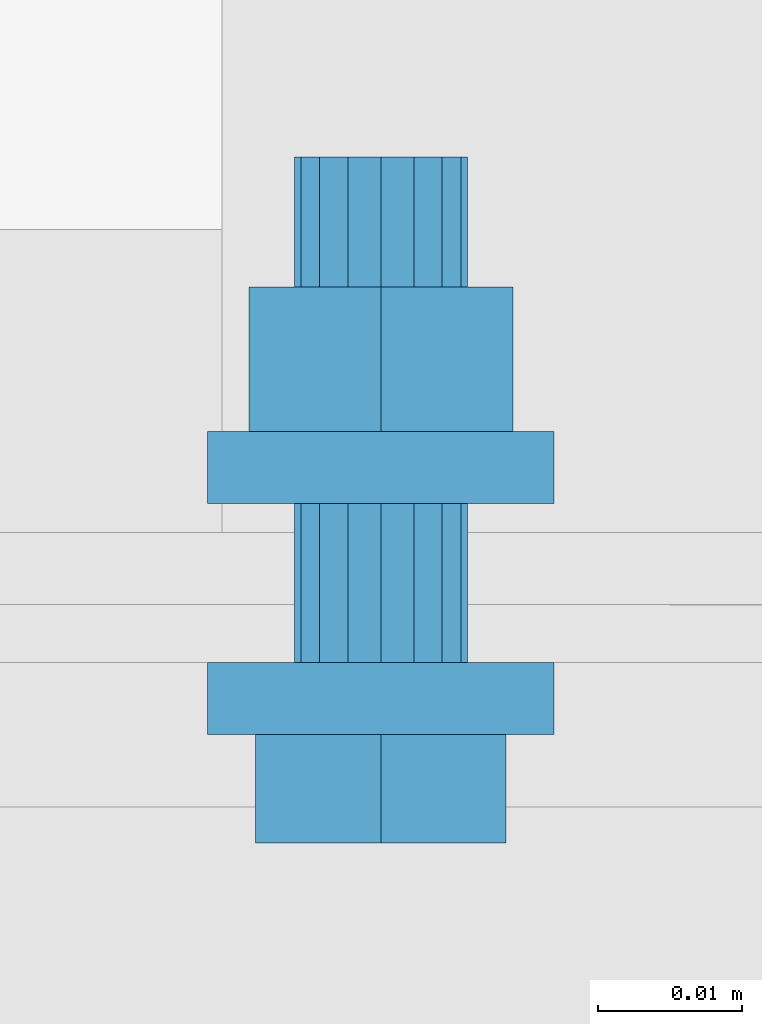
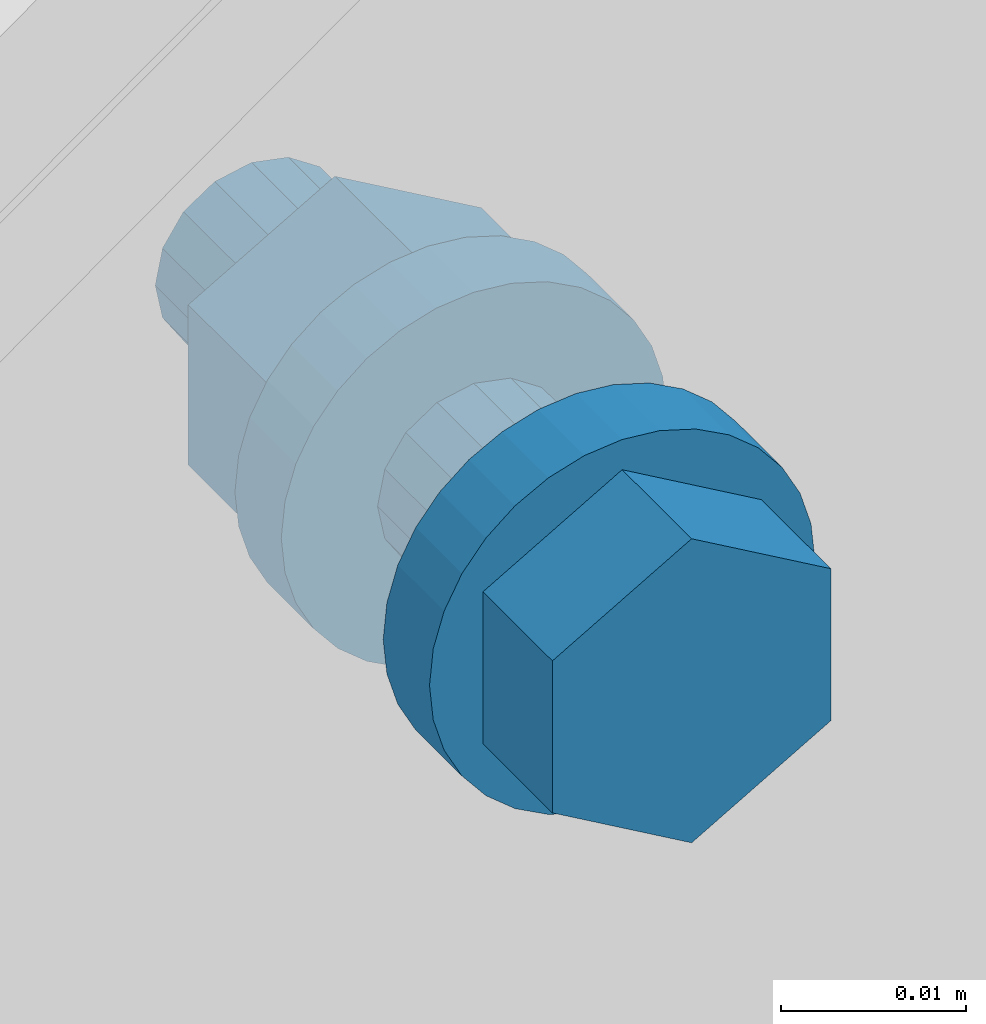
# One storey, part 73 of 116: 1 mechanical fastener.
"""IFC2X3 building model written with IfcOpenShell, lengths in millimetres."""

from ifc_helpers import new_model, entity, si_unit, converted_unit, origin_with_axes, place, context, project, spatial, faceted_brep, element, save


model = new_model("IFC2X3")

# Units and contexts
model_context = context("Model", 3, precision=1e-09, world=origin_with_axes())
ifc_project = project(units=[si_unit("LENGTHUNIT", "METRE", prefix="MILLI"), si_unit("AREAUNIT", "SQUARE_METRE"), si_unit("VOLUMEUNIT", "CUBIC_METRE"), converted_unit("PLANEANGLEUNIT", "DEGREE", entity("IfcPlaneAngleMeasure", 0.01745329), si_unit("PLANEANGLEUNIT", "RADIAN"), dimensions=[0, 0, 0, 0, 0, 0, 0])], contexts=[model_context])

# Site, building, storey
site_placement = place(None, origin_with_axes())
site = spatial("IfcSite", under=ifc_project, at=site_placement, Name="Site", CompositionType="ELEMENT")
building_placement = place(site_placement, origin_with_axes())
building = spatial("IfcBuilding", under=site, at=building_placement, Name="Struktur 1", CompositionType="ELEMENT")
storey_placement = place(building_placement, origin_with_axes())
storey = spatial("IfcBuildingStorey", under=building, at=storey_placement, Name="Default Storey", CompositionType="ELEMENT", Elevation=0.0)

# Mechanical fastener
mechanical_fastener_placement = place(None, origin_with_axes())
element("IfcMechanicalFastener", 1, at=mechanical_fastener_placement, inside=storey, ObjectType="-", NominalDiameter=12.0, NominalLength=40.0, context=model_context, shape_type="Brep", body=[
    faceted_brep([(60285.049134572, 9069.858883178, -1153.0), (60285.049134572, 9072.358883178, -1153.0), (60285.279711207, 9072.358883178, -1155.341083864), (60285.279711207, 9069.858883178, -1155.341083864), (60285.962580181, 9072.358883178, -1157.592201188), (60285.962580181, 9069.858883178, -1157.592201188), (60287.071499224, 9072.358883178, -1159.666842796), (60287.071499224, 9069.858883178, -1159.666842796), (60288.563853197, 9072.358883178, -1161.485281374), (60288.563853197, 9069.858883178, -1161.485281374), (60290.382291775, 9072.358883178, -1162.977635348), (60290.382291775, 9069.858883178, -1162.977635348), (60292.456933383, 9072.358883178, -1164.08655439), (60292.456933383, 9069.858883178, -1164.08655439), (60294.708050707, 9072.358883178, -1164.769423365), (60294.708050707, 9069.858883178, -1164.769423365), (60297.049134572, 9072.358883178, -1165.0), (60297.049134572, 9069.858883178, -1165.0), (60299.390218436, 9072.358883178, -1164.769423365), (60299.390218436, 9069.858883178, -1164.769423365), (60301.64133576, 9072.358883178, -1164.08655439), (60301.64133576, 9069.858883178, -1164.08655439), (60303.715977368, 9072.358883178, -1162.977635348), (60303.715977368, 9069.858883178, -1162.977635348), (60305.534415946, 9072.358883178, -1161.485281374), (60305.534415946, 9069.858883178, -1161.485281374), (60307.026769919, 9072.358883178, -1159.666842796), (60307.026769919, 9069.858883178, -1159.666842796), (60308.135688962, 9072.358883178, -1157.592201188), (60308.135688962, 9069.858883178, -1157.592201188), (60308.818557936, 9072.358883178, -1155.341083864), (60308.818557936, 9069.858883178, -1155.341083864), (60309.049134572, 9072.358883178, -1153.0), (60309.049134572, 9069.858883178, -1153.0), (60308.818557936, 9072.358883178, -1150.658916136), (60308.818557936, 9069.858883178, -1150.658916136), (60308.135688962, 9072.358883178, -1148.407798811), (60308.135688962, 9069.858883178, -1148.407798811), (60307.026769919, 9072.358883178, -1146.333157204), (60307.026769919, 9069.858883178, -1146.333157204), (60305.534415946, 9072.358883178, -1144.514718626), (60305.534415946, 9069.858883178, -1144.514718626), (60303.715977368, 9072.358883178, -1143.022364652), (60303.715977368, 9069.858883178, -1143.022364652), (60301.64133576, 9072.358883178, -1141.91344561), (60301.64133576, 9069.858883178, -1141.91344561), (60299.390218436, 9072.358883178, -1141.230576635), (60299.390218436, 9069.858883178, -1141.230576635), (60297.049134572, 9072.358883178, -1141.0), (60297.049134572, 9069.858883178, -1141.0), (60294.708050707, 9072.358883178, -1141.230576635), (60294.708050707, 9069.858883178, -1141.230576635), (60292.456933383, 9072.358883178, -1141.91344561), (60292.456933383, 9069.858883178, -1141.91344561), (60290.382291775, 9072.358883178, -1143.022364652), (60290.382291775, 9069.858883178, -1143.022364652), (60288.563853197, 9072.358883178, -1144.514718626), (60288.563853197, 9069.858883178, -1144.514718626), (60287.071499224, 9072.358883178, -1146.333157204), (60287.071499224, 9069.858883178, -1146.333157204), (60285.962580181, 9072.358883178, -1148.407798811), (60285.962580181, 9069.858883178, -1148.407798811), (60285.279711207, 9072.358883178, -1150.658916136), (60285.279711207, 9069.858883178, -1150.658916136)], [[[0, 1, 2, 3]], [[3, 2, 4, 5]], [[5, 4, 6, 7]], [[7, 6, 8, 9]], [[9, 8, 10, 11]], [[11, 10, 12, 13]], [[13, 12, 14, 15]], [[15, 14, 16, 17]], [[17, 16, 18, 19]], [[19, 18, 20, 21]], [[21, 20, 22, 23]], [[23, 22, 24, 25]], [[25, 24, 26, 27]], [[27, 26, 28, 29]], [[29, 28, 30, 31]], [[31, 30, 32, 33]], [[33, 32, 34, 35]], [[35, 34, 36, 37]], [[37, 36, 38, 39]], [[39, 38, 40, 41]], [[41, 40, 42, 43]], [[43, 42, 44, 45]], [[45, 44, 46, 47]], [[47, 46, 48, 49]], [[49, 48, 50, 51]], [[51, 50, 52, 53]], [[53, 52, 54, 55]], [[55, 54, 56, 57]], [[57, 56, 58, 59]], [[59, 58, 60, 61]], [[61, 60, 62, 63]], [[63, 62, 1, 0]], [[0, 3, 5, 7, 9, 11, 13, 15, 17, 19, 21, 23, 25, 27, 29, 31, 33, 35, 37, 39, 41, 43, 45, 47, 49, 51, 53, 55, 57, 59, 61, 63]], [[1, 62, 60, 58, 56, 54, 52, 50, 48, 46, 44, 42, 40, 38, 36, 34, 32, 30, 28, 26, 24, 22, 20, 18, 16, 14, 12, 10, 8, 6, 4, 2]]]),
    faceted_brep([(60285.049134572, 9067.358883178, -1153.0), (60285.049134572, 9069.858883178, -1153.0), (60285.279711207, 9069.858883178, -1155.341083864), (60285.279711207, 9067.358883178, -1155.341083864), (60285.962580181, 9069.858883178, -1157.592201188), (60285.962580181, 9067.358883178, -1157.592201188), (60287.071499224, 9069.858883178, -1159.666842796), (60287.071499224, 9067.358883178, -1159.666842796), (60288.563853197, 9069.858883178, -1161.485281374), (60288.563853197, 9067.358883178, -1161.485281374), (60290.382291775, 9069.858883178, -1162.977635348), (60290.382291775, 9067.358883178, -1162.977635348), (60292.456933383, 9069.858883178, -1164.08655439), (60292.456933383, 9067.358883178, -1164.08655439), (60294.708050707, 9069.858883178, -1164.769423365), (60294.708050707, 9067.358883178, -1164.769423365), (60297.049134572, 9069.858883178, -1165.0), (60297.049134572, 9067.358883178, -1165.0), (60299.390218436, 9069.858883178, -1164.769423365), (60299.390218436, 9067.358883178, -1164.769423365), (60301.64133576, 9069.858883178, -1164.08655439), (60301.64133576, 9067.358883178, -1164.08655439), (60303.715977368, 9069.858883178, -1162.977635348), (60303.715977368, 9067.358883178, -1162.977635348), (60305.534415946, 9069.858883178, -1161.485281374), (60305.534415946, 9067.358883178, -1161.485281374), (60307.026769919, 9069.858883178, -1159.666842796), (60307.026769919, 9067.358883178, -1159.666842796), (60308.135688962, 9069.858883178, -1157.592201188), (60308.135688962, 9067.358883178, -1157.592201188), (60308.818557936, 9069.858883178, -1155.341083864), (60308.818557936, 9067.358883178, -1155.341083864), (60309.049134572, 9069.858883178, -1153.0), (60309.049134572, 9067.358883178, -1153.0), (60308.818557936, 9069.858883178, -1150.658916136), (60308.818557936, 9067.358883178, -1150.658916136), (60308.135688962, 9069.858883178, -1148.407798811), (60308.135688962, 9067.358883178, -1148.407798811), (60307.026769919, 9069.858883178, -1146.333157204), (60307.026769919, 9067.358883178, -1146.333157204), (60305.534415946, 9069.858883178, -1144.514718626), (60305.534415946, 9067.358883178, -1144.514718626), (60303.715977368, 9069.858883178, -1143.022364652), (60303.715977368, 9067.358883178, -1143.022364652), (60301.64133576, 9069.858883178, -1141.91344561), (60301.64133576, 9067.358883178, -1141.91344561), (60299.390218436, 9069.858883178, -1141.230576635), (60299.390218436, 9067.358883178, -1141.230576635), (60297.049134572, 9069.858883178, -1141.0), (60297.049134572, 9067.358883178, -1141.0), (60294.708050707, 9069.858883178, -1141.230576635), (60294.708050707, 9067.358883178, -1141.230576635), (60292.456933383, 9069.858883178, -1141.91344561), (60292.456933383, 9067.358883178, -1141.91344561), (60290.382291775, 9069.858883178, -1143.022364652), (60290.382291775, 9067.358883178, -1143.022364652), (60288.563853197, 9069.858883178, -1144.514718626), (60288.563853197, 9067.358883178, -1144.514718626), (60287.071499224, 9069.858883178, -1146.333157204), (60287.071499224, 9067.358883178, -1146.333157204), (60285.962580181, 9069.858883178, -1148.407798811), (60285.962580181, 9067.358883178, -1148.407798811), (60285.279711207, 9069.858883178, -1150.658916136), (60285.279711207, 9067.358883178, -1150.658916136)], [[[0, 1, 2, 3]], [[3, 2, 4, 5]], [[5, 4, 6, 7]], [[7, 6, 8, 9]], [[9, 8, 10, 11]], [[11, 10, 12, 13]], [[13, 12, 14, 15]], [[15, 14, 16, 17]], [[17, 16, 18, 19]], [[19, 18, 20, 21]], [[21, 20, 22, 23]], [[23, 22, 24, 25]], [[25, 24, 26, 27]], [[27, 26, 28, 29]], [[29, 28, 30, 31]], [[31, 30, 32, 33]], [[33, 32, 34, 35]], [[35, 34, 36, 37]], [[37, 36, 38, 39]], [[39, 38, 40, 41]], [[41, 40, 42, 43]], [[43, 42, 44, 45]], [[45, 44, 46, 47]], [[47, 46, 48, 49]], [[49, 48, 50, 51]], [[51, 50, 52, 53]], [[53, 52, 54, 55]], [[55, 54, 56, 57]], [[57, 56, 58, 59]], [[59, 58, 60, 61]], [[61, 60, 62, 63]], [[63, 62, 1, 0]], [[0, 3, 5, 7, 9, 11, 13, 15, 17, 19, 21, 23, 25, 27, 29, 31, 33, 35, 37, 39, 41, 43, 45, 47, 49, 51, 53, 55, 57, 59, 61, 63]], [[1, 62, 60, 58, 56, 54, 52, 50, 48, 46, 44, 42, 40, 38, 36, 34, 32, 30, 28, 26, 24, 22, 20, 18, 16, 14, 12, 10, 8, 6, 4, 2]]]),
    faceted_brep([(60305.722378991, 9067.358883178, -1158.0075), (60305.722378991, 9059.858883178, -1158.0075), (60297.049134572, 9059.858883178, -1163.015), (60297.049134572, 9067.358883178, -1163.015), (60288.375890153, 9059.858883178, -1158.0075), (60288.375890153, 9067.358883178, -1158.0075), (60288.375890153, 9059.858883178, -1147.9925), (60288.375890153, 9067.358883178, -1147.9925), (60297.049134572, 9059.858883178, -1142.985), (60297.049134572, 9067.358883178, -1142.985), (60305.722378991, 9059.858883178, -1147.9925), (60305.722378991, 9067.358883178, -1147.9925)], [[[0, 1, 2, 3]], [[3, 2, 4, 5]], [[5, 4, 6, 7]], [[7, 6, 8, 9]], [[9, 8, 10, 11]], [[11, 10, 1, 0]], [[4, 2, 1, 10, 8, 6]], [[0, 3, 5, 7, 9, 11]]]),
    faceted_brep([(60291.049134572, 9072.358883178, -1153.0), (60291.049134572, 9083.358883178, -1153.0), (60291.505857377, 9083.358883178, -1155.296100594), (60291.505857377, 9072.358883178, -1155.296100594), (60292.806493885, 9083.358883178, -1157.242640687), (60292.806493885, 9072.358883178, -1157.242640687), (60294.753033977, 9083.358883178, -1158.543277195), (60294.753033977, 9072.358883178, -1158.543277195), (60297.049134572, 9083.358883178, -1159.0), (60297.049134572, 9072.358883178, -1159.0), (60299.345235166, 9083.358883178, -1158.543277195), (60299.345235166, 9072.358883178, -1158.543277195), (60301.291775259, 9083.358883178, -1157.242640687), (60301.291775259, 9072.358883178, -1157.242640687), (60302.592411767, 9083.358883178, -1155.296100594), (60302.592411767, 9072.358883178, -1155.296100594), (60303.049134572, 9083.358883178, -1153.0), (60303.049134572, 9072.358883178, -1153.0), (60302.592411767, 9083.358883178, -1150.703899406), (60302.592411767, 9072.358883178, -1150.703899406), (60301.291775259, 9083.358883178, -1148.757359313), (60301.291775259, 9072.358883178, -1148.757359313), (60299.345235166, 9083.358883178, -1147.456722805), (60299.345235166, 9072.358883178, -1147.456722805), (60297.049134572, 9083.358883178, -1147.0), (60297.049134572, 9072.358883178, -1147.0), (60294.753033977, 9083.358883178, -1147.456722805), (60294.753033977, 9072.358883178, -1147.456722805), (60292.806493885, 9083.358883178, -1148.757359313), (60292.806493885, 9072.358883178, -1148.757359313), (60291.505857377, 9083.358883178, -1150.703899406), (60291.505857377, 9072.358883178, -1150.703899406)], [[[0, 1, 2, 3]], [[3, 2, 4, 5]], [[5, 4, 6, 7]], [[7, 6, 8, 9]], [[9, 8, 10, 11]], [[11, 10, 12, 13]], [[13, 12, 14, 15]], [[15, 14, 16, 17]], [[17, 16, 18, 19]], [[19, 18, 20, 21]], [[21, 20, 22, 23]], [[23, 22, 24, 25]], [[25, 24, 26, 27]], [[27, 26, 28, 29]], [[29, 28, 30, 31]], [[31, 30, 1, 0]], [[0, 3, 5, 7, 9, 11, 13, 15, 17, 19, 21, 23, 25, 27, 29, 31]], [[1, 30, 28, 26, 24, 22, 20, 18, 16, 14, 12, 10, 8, 6, 4, 2]]]),
    faceted_brep([(60285.049134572, 9083.358883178, -1153.0), (60285.049134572, 9085.858883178, -1153.0), (60285.279711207, 9085.858883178, -1155.341083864), (60285.279711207, 9083.358883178, -1155.341083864), (60285.962580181, 9085.858883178, -1157.592201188), (60285.962580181, 9083.358883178, -1157.592201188), (60287.071499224, 9085.858883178, -1159.666842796), (60287.071499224, 9083.358883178, -1159.666842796), (60288.563853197, 9085.858883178, -1161.485281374), (60288.563853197, 9083.358883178, -1161.485281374), (60290.382291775, 9085.858883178, -1162.977635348), (60290.382291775, 9083.358883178, -1162.977635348), (60292.456933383, 9085.858883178, -1164.08655439), (60292.456933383, 9083.358883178, -1164.08655439), (60294.708050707, 9085.858883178, -1164.769423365), (60294.708050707, 9083.358883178, -1164.769423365), (60297.049134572, 9085.858883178, -1165.0), (60297.049134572, 9083.358883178, -1165.0), (60299.390218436, 9085.858883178, -1164.769423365), (60299.390218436, 9083.358883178, -1164.769423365), (60301.64133576, 9085.858883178, -1164.08655439), (60301.64133576, 9083.358883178, -1164.08655439), (60303.715977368, 9085.858883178, -1162.977635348), (60303.715977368, 9083.358883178, -1162.977635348), (60305.534415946, 9085.858883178, -1161.485281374), (60305.534415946, 9083.358883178, -1161.485281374), (60307.026769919, 9085.858883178, -1159.666842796), (60307.026769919, 9083.358883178, -1159.666842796), (60308.135688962, 9085.858883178, -1157.592201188), (60308.135688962, 9083.358883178, -1157.592201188), (60308.818557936, 9085.858883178, -1155.341083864), (60308.818557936, 9083.358883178, -1155.341083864), (60309.049134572, 9085.858883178, -1153.0), (60309.049134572, 9083.358883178, -1153.0), (60308.818557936, 9085.858883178, -1150.658916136), (60308.818557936, 9083.358883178, -1150.658916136), (60308.135688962, 9085.858883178, -1148.407798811), (60308.135688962, 9083.358883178, -1148.407798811), (60307.026769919, 9085.858883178, -1146.333157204), (60307.026769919, 9083.358883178, -1146.333157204), (60305.534415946, 9085.858883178, -1144.514718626), (60305.534415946, 9083.358883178, -1144.514718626), (60303.715977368, 9085.858883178, -1143.022364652), (60303.715977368, 9083.358883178, -1143.022364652), (60301.64133576, 9085.858883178, -1141.91344561), (60301.64133576, 9083.358883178, -1141.91344561), (60299.390218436, 9085.858883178, -1141.230576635), (60299.390218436, 9083.358883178, -1141.230576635), (60297.049134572, 9085.858883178, -1141.0), (60297.049134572, 9083.358883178, -1141.0), (60294.708050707, 9085.858883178, -1141.230576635), (60294.708050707, 9083.358883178, -1141.230576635), (60292.456933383, 9085.858883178, -1141.91344561), (60292.456933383, 9083.358883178, -1141.91344561), (60290.382291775, 9085.858883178, -1143.022364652), (60290.382291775, 9083.358883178, -1143.022364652), (60288.563853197, 9085.858883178, -1144.514718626), (60288.563853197, 9083.358883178, -1144.514718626), (60287.071499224, 9085.858883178, -1146.333157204), (60287.071499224, 9083.358883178, -1146.333157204), (60285.962580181, 9085.858883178, -1148.407798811), (60285.962580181, 9083.358883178, -1148.407798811), (60285.279711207, 9085.858883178, -1150.658916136), (60285.279711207, 9083.358883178, -1150.658916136)], [[[0, 1, 2, 3]], [[3, 2, 4, 5]], [[5, 4, 6, 7]], [[7, 6, 8, 9]], [[9, 8, 10, 11]], [[11, 10, 12, 13]], [[13, 12, 14, 15]], [[15, 14, 16, 17]], [[17, 16, 18, 19]], [[19, 18, 20, 21]], [[21, 20, 22, 23]], [[23, 22, 24, 25]], [[25, 24, 26, 27]], [[27, 26, 28, 29]], [[29, 28, 30, 31]], [[31, 30, 32, 33]], [[33, 32, 34, 35]], [[35, 34, 36, 37]], [[37, 36, 38, 39]], [[39, 38, 40, 41]], [[41, 40, 42, 43]], [[43, 42, 44, 45]], [[45, 44, 46, 47]], [[47, 46, 48, 49]], [[49, 48, 50, 51]], [[51, 50, 52, 53]], [[53, 52, 54, 55]], [[55, 54, 56, 57]], [[57, 56, 58, 59]], [[59, 58, 60, 61]], [[61, 60, 62, 63]], [[63, 62, 1, 0]], [[0, 3, 5, 7, 9, 11, 13, 15, 17, 19, 21, 23, 25, 27, 29, 31, 33, 35, 37, 39, 41, 43, 45, 47, 49, 51, 53, 55, 57, 59, 61, 63]], [[1, 62, 60, 58, 56, 54, 52, 50, 48, 46, 44, 42, 40, 38, 36, 34, 32, 30, 28, 26, 24, 22, 20, 18, 16, 14, 12, 10, 8, 6, 4, 2]]]),
    faceted_brep([(60285.049134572, 9085.858883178, -1153.0), (60285.049134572, 9088.358883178, -1153.0), (60285.279711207, 9088.358883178, -1155.341083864), (60285.279711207, 9085.858883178, -1155.341083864), (60285.962580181, 9088.358883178, -1157.592201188), (60285.962580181, 9085.858883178, -1157.592201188), (60287.071499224, 9088.358883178, -1159.666842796), (60287.071499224, 9085.858883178, -1159.666842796), (60288.563853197, 9088.358883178, -1161.485281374), (60288.563853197, 9085.858883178, -1161.485281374), (60290.382291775, 9088.358883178, -1162.977635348), (60290.382291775, 9085.858883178, -1162.977635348), (60292.456933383, 9088.358883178, -1164.08655439), (60292.456933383, 9085.858883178, -1164.08655439), (60294.708050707, 9088.358883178, -1164.769423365), (60294.708050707, 9085.858883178, -1164.769423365), (60297.049134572, 9088.358883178, -1165.0), (60297.049134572, 9085.858883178, -1165.0), (60299.390218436, 9088.358883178, -1164.769423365), (60299.390218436, 9085.858883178, -1164.769423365), (60301.64133576, 9088.358883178, -1164.08655439), (60301.64133576, 9085.858883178, -1164.08655439), (60303.715977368, 9088.358883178, -1162.977635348), (60303.715977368, 9085.858883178, -1162.977635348), (60305.534415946, 9088.358883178, -1161.485281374), (60305.534415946, 9085.858883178, -1161.485281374), (60307.026769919, 9088.358883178, -1159.666842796), (60307.026769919, 9085.858883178, -1159.666842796), (60308.135688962, 9088.358883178, -1157.592201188), (60308.135688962, 9085.858883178, -1157.592201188), (60308.818557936, 9088.358883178, -1155.341083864), (60308.818557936, 9085.858883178, -1155.341083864), (60309.049134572, 9088.358883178, -1153.0), (60309.049134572, 9085.858883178, -1153.0), (60308.818557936, 9088.358883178, -1150.658916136), (60308.818557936, 9085.858883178, -1150.658916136), (60308.135688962, 9088.358883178, -1148.407798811), (60308.135688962, 9085.858883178, -1148.407798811), (60307.026769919, 9088.358883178, -1146.333157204), (60307.026769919, 9085.858883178, -1146.333157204), (60305.534415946, 9088.358883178, -1144.514718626), (60305.534415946, 9085.858883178, -1144.514718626), (60303.715977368, 9088.358883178, -1143.022364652), (60303.715977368, 9085.858883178, -1143.022364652), (60301.64133576, 9088.358883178, -1141.91344561), (60301.64133576, 9085.858883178, -1141.91344561), (60299.390218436, 9088.358883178, -1141.230576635), (60299.390218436, 9085.858883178, -1141.230576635), (60297.049134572, 9088.358883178, -1141.0), (60297.049134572, 9085.858883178, -1141.0), (60294.708050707, 9088.358883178, -1141.230576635), (60294.708050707, 9085.858883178, -1141.230576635), (60292.456933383, 9088.358883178, -1141.91344561), (60292.456933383, 9085.858883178, -1141.91344561), (60290.382291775, 9088.358883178, -1143.022364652), (60290.382291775, 9085.858883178, -1143.022364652), (60288.563853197, 9088.358883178, -1144.514718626), (60288.563853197, 9085.858883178, -1144.514718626), (60287.071499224, 9088.358883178, -1146.333157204), (60287.071499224, 9085.858883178, -1146.333157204), (60285.962580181, 9088.358883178, -1148.407798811), (60285.962580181, 9085.858883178, -1148.407798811), (60285.279711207, 9088.358883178, -1150.658916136), (60285.279711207, 9085.858883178, -1150.658916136)], [[[0, 1, 2, 3]], [[3, 2, 4, 5]], [[5, 4, 6, 7]], [[7, 6, 8, 9]], [[9, 8, 10, 11]], [[11, 10, 12, 13]], [[13, 12, 14, 15]], [[15, 14, 16, 17]], [[17, 16, 18, 19]], [[19, 18, 20, 21]], [[21, 20, 22, 23]], [[23, 22, 24, 25]], [[25, 24, 26, 27]], [[27, 26, 28, 29]], [[29, 28, 30, 31]], [[31, 30, 32, 33]], [[33, 32, 34, 35]], [[35, 34, 36, 37]], [[37, 36, 38, 39]], [[39, 38, 40, 41]], [[41, 40, 42, 43]], [[43, 42, 44, 45]], [[45, 44, 46, 47]], [[47, 46, 48, 49]], [[49, 48, 50, 51]], [[51, 50, 52, 53]], [[53, 52, 54, 55]], [[55, 54, 56, 57]], [[57, 56, 58, 59]], [[59, 58, 60, 61]], [[61, 60, 62, 63]], [[63, 62, 1, 0]], [[0, 3, 5, 7, 9, 11, 13, 15, 17, 19, 21, 23, 25, 27, 29, 31, 33, 35, 37, 39, 41, 43, 45, 47, 49, 51, 53, 55, 57, 59, 61, 63]], [[1, 62, 60, 58, 56, 54, 52, 50, 48, 46, 44, 42, 40, 38, 36, 34, 32, 30, 28, 26, 24, 22, 20, 18, 16, 14, 12, 10, 8, 6, 4, 2]]]),
    faceted_brep([(60306.185702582, 9098.358883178, -1158.275), (60306.185702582, 9088.358883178, -1158.275), (60297.049134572, 9088.358883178, -1163.55), (60297.049134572, 9098.358883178, -1163.55), (60287.912566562, 9088.358883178, -1158.275), (60287.912566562, 9098.358883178, -1158.275), (60287.912566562, 9088.358883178, -1147.725), (60287.912566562, 9098.358883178, -1147.725), (60297.049134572, 9088.358883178, -1142.45), (60297.049134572, 9098.358883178, -1142.45), (60306.185702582, 9088.358883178, -1147.725), (60306.185702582, 9098.358883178, -1147.725)], [[[0, 1, 2, 3]], [[3, 2, 4, 5]], [[5, 4, 6, 7]], [[7, 6, 8, 9]], [[9, 8, 10, 11]], [[11, 10, 1, 0]], [[4, 2, 1, 10, 8, 6]], [[0, 3, 5, 7, 9, 11]]]),
    faceted_brep([(60291.049134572, 9098.358883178, -1153.0), (60291.049134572, 9107.358883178, -1153.0), (60291.505857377, 9107.358883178, -1155.296100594), (60291.505857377, 9098.358883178, -1155.296100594), (60292.806493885, 9107.358883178, -1157.242640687), (60292.806493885, 9098.358883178, -1157.242640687), (60294.753033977, 9107.358883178, -1158.543277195), (60294.753033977, 9098.358883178, -1158.543277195), (60297.049134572, 9107.358883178, -1159.0), (60297.049134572, 9098.358883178, -1159.0), (60299.345235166, 9107.358883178, -1158.543277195), (60299.345235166, 9098.358883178, -1158.543277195), (60301.291775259, 9107.358883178, -1157.242640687), (60301.291775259, 9098.358883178, -1157.242640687), (60302.592411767, 9107.358883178, -1155.296100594), (60302.592411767, 9098.358883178, -1155.296100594), (60303.049134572, 9107.358883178, -1153.0), (60303.049134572, 9098.358883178, -1153.0), (60302.592411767, 9107.358883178, -1150.703899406), (60302.592411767, 9098.358883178, -1150.703899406), (60301.291775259, 9107.358883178, -1148.757359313), (60301.291775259, 9098.358883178, -1148.757359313), (60299.345235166, 9107.358883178, -1147.456722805), (60299.345235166, 9098.358883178, -1147.456722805), (60297.049134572, 9107.358883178, -1147.0), (60297.049134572, 9098.358883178, -1147.0), (60294.753033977, 9107.358883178, -1147.456722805), (60294.753033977, 9098.358883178, -1147.456722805), (60292.806493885, 9107.358883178, -1148.757359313), (60292.806493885, 9098.358883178, -1148.757359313), (60291.505857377, 9107.358883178, -1150.703899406), (60291.505857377, 9098.358883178, -1150.703899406)], [[[0, 1, 2, 3]], [[3, 2, 4, 5]], [[5, 4, 6, 7]], [[7, 6, 8, 9]], [[9, 8, 10, 11]], [[11, 10, 12, 13]], [[13, 12, 14, 15]], [[15, 14, 16, 17]], [[17, 16, 18, 19]], [[19, 18, 20, 21]], [[21, 20, 22, 23]], [[23, 22, 24, 25]], [[25, 24, 26, 27]], [[27, 26, 28, 29]], [[29, 28, 30, 31]], [[31, 30, 1, 0]], [[0, 3, 5, 7, 9, 11, 13, 15, 17, 19, 21, 23, 25, 27, 29, 31]], [[1, 30, 28, 26, 24, 22, 20, 18, 16, 14, 12, 10, 8, 6, 4, 2]]]),
])

save(model, "model.ifc")
